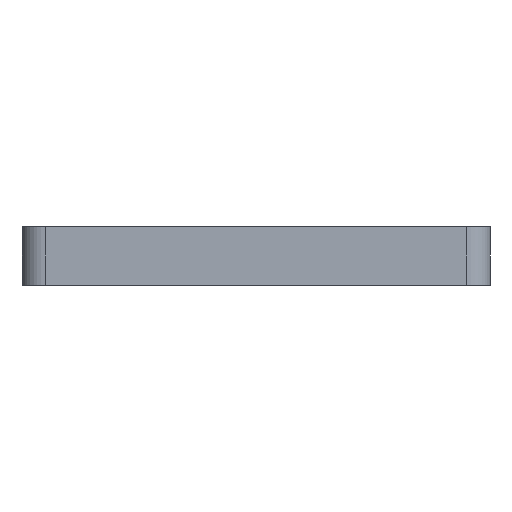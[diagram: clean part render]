
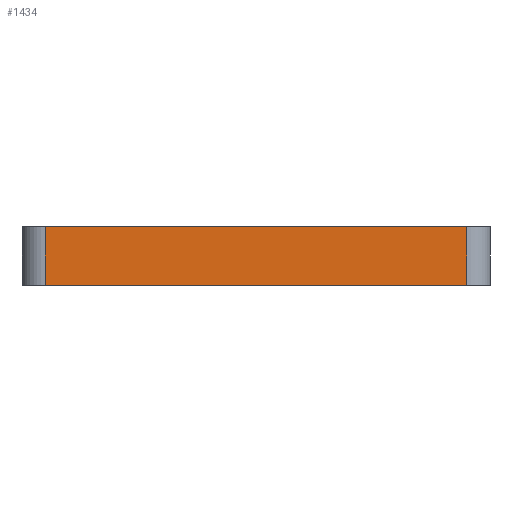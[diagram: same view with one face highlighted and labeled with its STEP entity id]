
A CAD part, front view. The second image highlights one B-rep face of the part: STEP entity #1434.
In plain terms, the highlighted planar face has unit normal (0, -1, 0).
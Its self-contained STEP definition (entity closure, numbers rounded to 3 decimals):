
#48=LINE('',#2224,#156);
#49=LINE('',#2228,#157);
#50=LINE('',#2230,#158);
#51=LINE('',#2231,#159);
#156=VECTOR('',#1743,2.5);
#157=VECTOR('',#1748,18.);
#158=VECTOR('',#1749,2.5);
#159=VECTOR('',#1750,18.);
#258=PLANE('',#1533);
#293=FACE_OUTER_BOUND('',#383,.T.);
#383=EDGE_LOOP('',(#907,#908,#909,#910));
#579=VERTEX_POINT('',#2221);
#580=VERTEX_POINT('',#2223);
#581=VERTEX_POINT('',#2227);
#582=VERTEX_POINT('',#2229);
#700=EDGE_CURVE('',#580,#579,#48,.T.);
#702=EDGE_CURVE('',#579,#581,#49,.T.);
#703=EDGE_CURVE('',#582,#581,#50,.T.);
#704=EDGE_CURVE('',#582,#580,#51,.T.);
#907=ORIENTED_EDGE('',*,*,#702,.T.);
#908=ORIENTED_EDGE('',*,*,#703,.F.);
#909=ORIENTED_EDGE('',*,*,#704,.T.);
#910=ORIENTED_EDGE('',*,*,#700,.T.);
#1434=ADVANCED_FACE('',(#293),#258,.T.);
#1533=AXIS2_PLACEMENT_3D('',#2226,#1746,#1747);
#1743=DIRECTION('',(0.,0.,1.));
#1746=DIRECTION('center_axis',(0.,-1.,0.));
#1747=DIRECTION('ref_axis',(0.,0.,-1.));
#1748=DIRECTION('',(-1.,0.,0.));
#1749=DIRECTION('',(0.,0.,1.));
#1750=DIRECTION('',(1.,0.,0.));
#2221=CARTESIAN_POINT('',(9.,-53.,1.25));
#2223=CARTESIAN_POINT('',(9.,-53.,-1.25));
#2224=CARTESIAN_POINT('',(9.,-53.,-1.25));
#2226=CARTESIAN_POINT('Origin',(9.,-53.,-1.25));
#2227=CARTESIAN_POINT('',(-9.,-53.,1.25));
#2228=CARTESIAN_POINT('',(9.,-53.,1.25));
#2229=CARTESIAN_POINT('',(-9.,-53.,-1.25));
#2230=CARTESIAN_POINT('',(-9.,-53.,-1.25));
#2231=CARTESIAN_POINT('',(-9.,-53.,-1.25));
